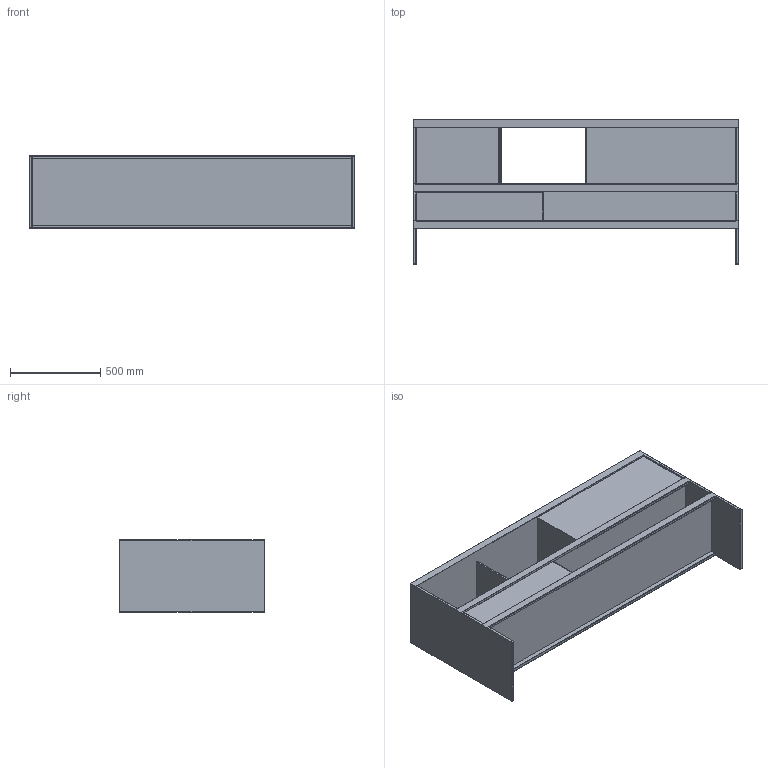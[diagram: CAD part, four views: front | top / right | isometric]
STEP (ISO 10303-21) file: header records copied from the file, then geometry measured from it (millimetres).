
FILE_DESCRIPTION (( 'STEP AP203' ), '1' );
FILE_NAME ('Komoda MIES_defeature.STEP', '2025-10-15T10:48:59', ( '' ), ( '' ), 'SwSTEP 2.0', 'SolidWorks 2025', '' );
FILE_SCHEMA (( 'CONFIG_CONTROL_DESIGN' ));
Products named in the file (2): Group1^Komoda MIES_defeature; Komoda MIES_defeature
Assembly tree (1 placements, depth 2):
  Komoda MIES_defeature
    Group1^Komoda MIES_defeature
Bounding box: 1800 x 800 x 400 mm (x, y, z)
Volume: 63534570.9 mm3; surface area: 11639101.3 mm2
Topology: 62 solids, 62 shells, 2177 faces, 6099 edges, 4036 vertices
Faces by surface type: plane 1125, cylinder 1022, cone 20, bspline 10
Entity records: 70621 total; most frequent: CARTESIAN_POINT 12496, DIRECTION 12485, ORIENTED_EDGE 12178, EDGE_CURVE 6089, AXIS2_PLACEMENT_3D 4245, VERTEX_POINT 4036, LINE 3995, VECTOR 3995
